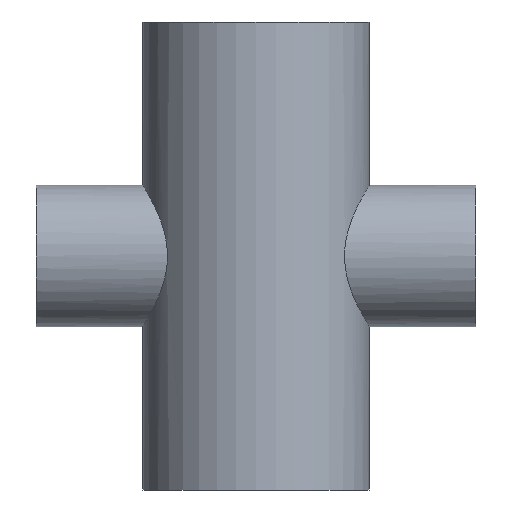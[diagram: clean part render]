
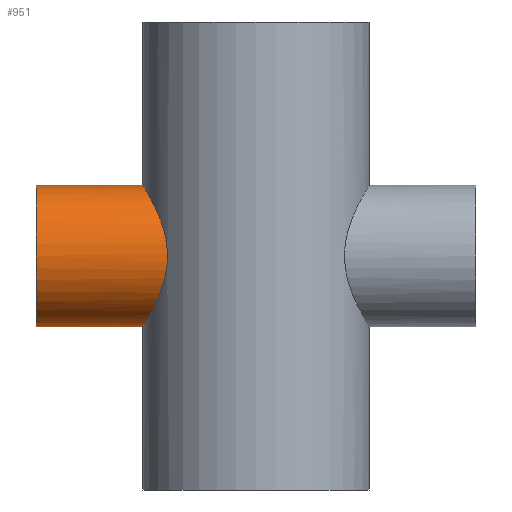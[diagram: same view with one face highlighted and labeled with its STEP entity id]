
A CAD part, front view. The second image highlights one B-rep face of the part: STEP entity #951.
In plain terms, the highlighted cylindrical face has radius 31.75 mm (diameter 63.5 mm), a partial arc.
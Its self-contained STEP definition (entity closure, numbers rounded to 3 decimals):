
#1 = CARTESIAN_POINT ( 'NONE',  ( -98.425, 0., 0. ) ) ;
#2 = CARTESIAN_POINT ( 'NONE',  ( -47.893, -16.963, -26.858 ) ) ;
#5 = CARTESIAN_POINT ( 'NONE',  ( -48.193, -16.092, -27.389 ) ) ;
#8 = CARTESIAN_POINT ( 'NONE',  ( -48.759, -14.285, -28.373 ) ) ;
#11 = CARTESIAN_POINT ( 'NONE',  ( -49.025, -13.349, -28.827 ) ) ;
#13 = CARTESIAN_POINT ( 'NONE',  ( -49.756, -10.44, -30.058 ) ) ;
#16 = CARTESIAN_POINT ( 'NONE',  ( -50.137, -8.44, -30.68 ) ) ;
#27 = CARTESIAN_POINT ( 'NONE',  ( -98.425, 0., -31.75 ) ) ;
#28 = DIRECTION ( 'NONE',  ( 1., 0., 0. ) ) ;
#40 = CARTESIAN_POINT ( 'NONE',  ( -40.001, -31.315, 5.344 ) ) ;
#44 = CARTESIAN_POINT ( 'NONE',  ( -50.529, -5.345, -31.315 ) ) ;
#46 = DIRECTION ( 'NONE',  ( 0., 0., -1. ) ) ;
#49 = EDGE_CURVE ( 'NONE', #172, #350, #512, .T. ) ;
#51 = CARTESIAN_POINT ( 'NONE',  ( -50.629, -4.297, -31.476 ) ) ;
#53 = CARTESIAN_POINT ( 'NONE',  ( -42.103, -28.441, 14.261 ) ) ;
#55 = CARTESIAN_POINT ( 'NONE',  ( -50.765, -2.168, -31.694 ) ) ;
#58 = CARTESIAN_POINT ( 'NONE',  ( -50.8, -1.083, -31.75 ) ) ;
#63 = CARTESIAN_POINT ( 'NONE',  ( -50.8, 0., -31.75 ) ) ;
#65 = CARTESIAN_POINT ( 'NONE',  ( -41.258, -29.642, 11.421 ) ) ;
#71 = DIRECTION ( 'NONE',  ( 1., 0., 0. ) ) ;
#73 = CARTESIAN_POINT ( 'NONE',  ( -42.749, -27.476, 16.039 ) ) ;
#121 = CARTESIAN_POINT ( 'NONE',  ( -40.329, -30.891, 7.411 ) ) ;
#128 = CARTESIAN_POINT ( 'NONE',  ( -98.425, 0., -31.75 ) ) ;
#134 = CARTESIAN_POINT ( 'NONE',  ( -50.8, 0., 31.75 ) ) ;
#172 = VERTEX_POINT ( 'NONE', #27 ) ;
#173 = DIRECTION ( 'NONE',  ( 1., 0., 0. ) ) ;
#187 = CARTESIAN_POINT ( 'NONE',  ( -40.53, -30.628, 8.431 ) ) ;
#197 = CARTESIAN_POINT ( 'NONE',  ( -41.246, -29.659, -11.379 ) ) ;
#199 = CARTESIAN_POINT ( 'NONE',  ( -39.874, -31.476, 4.297 ) ) ;
#206 = CARTESIAN_POINT ( 'NONE',  ( -41.811, -28.857, -13.281 ) ) ;
#208 = CARTESIAN_POINT ( 'NONE',  ( -42.116, -28.412, -14.209 ) ) ;
#225 = CARTESIAN_POINT ( 'NONE',  ( -42.761, -27.432, -16.019 ) ) ;
#231 = LINE ( 'NONE', #812, #266 ) ;
#266 = VECTOR ( 'NONE', #71, 1000. ) ;
#269 = CARTESIAN_POINT ( 'NONE',  ( -50.8, 0., 31.75 ) ) ;
#275 = CARTESIAN_POINT ( 'NONE',  ( -50.8, -2.162, 31.75 ) ) ;
#295 = ORIENTED_EDGE ( 'NONE', *, *, #49, .T. ) ;
#302 = CARTESIAN_POINT ( 'NONE',  ( -98.425, 0., 31.75 ) ) ;
#305 = CARTESIAN_POINT ( 'NONE',  ( -43.097, -26.902, -16.894 ) ) ;
#308 = CARTESIAN_POINT ( 'NONE',  ( -50.8, 0., -31.75 ) ) ;
#350 = VERTEX_POINT ( 'NONE', #308 ) ;
#381 = VERTEX_POINT ( 'NONE', #302 ) ;
#414 = CYLINDRICAL_SURFACE ( 'NONE', #475, 31.75 ) ;
#420 = EDGE_CURVE ( 'NONE', #381, #172, #575, .T. ) ;
#475 = AXIS2_PLACEMENT_3D ( 'NONE', #903, #666, #678 ) ;
#493 = B_SPLINE_CURVE_WITH_KNOTS ( 'NONE', 3,
 ( #269, #275, #823, #819, #834, #838, #880, #883, #887, #899, #957, #969, #974, #983, #987, #992, #996, #73, #53, #65, #918, #187, #121, #40, #199, #643, #667, #680, #737, #753, #826, #836, #904, #967, #197, #206, #208, #225, #305, #613, #998, #688, #695, #698, #706, #765, #995, #2, #5, #8, #11, #13, #16, #44, #51, #55, #58, #63 ),
 .UNSPECIFIED., .F., .F.,
 ( 4, 2, 2, 2, 2, 2, 2, 2, 2, 2, 2, 2, 2, 2, 2, 2, 2, 2, 2, 2, 2, 2, 2, 2, 2, 2, 2, 2, 4 ),
 ( 0., 0.006, 0.01, 0.013, 0.019, 0.026, 0.029, 0.03, 0.032, 0.038, 0.041, 0.045, 0.048, 0.049, 0.051, 0.057, 0.061, 0.064, 0.067, 0.07, 0.077, 0.078, 0.08, 0.083, 0.086, 0.089, 0.096, 0.099, 0.102 ),
 .UNSPECIFIED. ) ;
#498 = VECTOR ( 'NONE', #173, 1000. ) ;
#512 = LINE ( 'NONE', #128, #498 ) ;
#529 = VERTEX_POINT ( 'NONE', #134 ) ;
#561 = FACE_OUTER_BOUND ( 'NONE', #702, .T. ) ;
#575 = CIRCLE ( 'NONE', #873, 31.75 ) ;
#613 = CARTESIAN_POINT ( 'NONE',  ( -44.127, -25.203, -19.416 ) ) ;
#643 = CARTESIAN_POINT ( 'NONE',  ( -39.744, -31.639, 2.705 ) ) ;
#650 = EDGE_CURVE ( 'NONE', #529, #350, #493, .T. ) ;
#666 = DIRECTION ( 'NONE',  ( 1., 0., 0. ) ) ;
#667 = CARTESIAN_POINT ( 'NONE',  ( -39.711, -31.68, 2.171 ) ) ;
#678 = DIRECTION ( 'NONE',  ( 0., 0., -1. ) ) ;
#680 = CARTESIAN_POINT ( 'NONE',  ( -39.667, -31.736, 1.096 ) ) ;
#688 = CARTESIAN_POINT ( 'NONE',  ( -45.728, -22.131, -22.772 ) ) ;
#695 = CARTESIAN_POINT ( 'NONE',  ( -45.905, -21.762, -23.125 ) ) ;
#698 = CARTESIAN_POINT ( 'NONE',  ( -46.254, -21.01, -23.81 ) ) ;
#702 = EDGE_LOOP ( 'NONE', ( #977, #705, #295, #732 ) ) ;
#705 = ORIENTED_EDGE ( 'NONE', *, *, #420, .T. ) ;
#706 = CARTESIAN_POINT ( 'NONE',  ( -46.426, -20.626, -24.143 ) ) ;
#732 = ORIENTED_EDGE ( 'NONE', *, *, #650, .F. ) ;
#737 = CARTESIAN_POINT ( 'NONE',  ( -39.656, -31.75, 0.553 ) ) ;
#753 = CARTESIAN_POINT ( 'NONE',  ( -39.655, -31.751, -2.136 ) ) ;
#765 = CARTESIAN_POINT ( 'NONE',  ( -46.935, -19.455, -25.112 ) ) ;
#780 = EDGE_CURVE ( 'NONE', #381, #529, #231, .T. ) ;
#812 = CARTESIAN_POINT ( 'NONE',  ( -98.425, 0., 31.75 ) ) ;
#819 = CARTESIAN_POINT ( 'NONE',  ( -50.271, -7.386, 30.897 ) ) ;
#823 = CARTESIAN_POINT ( 'NONE',  ( -50.663, -4.277, 31.532 ) ) ;
#826 = CARTESIAN_POINT ( 'NONE',  ( -39.83, -31.536, -4.25 ) ) ;
#834 = CARTESIAN_POINT ( 'NONE',  ( -50.109, -8.411, 30.634 ) ) ;
#836 = CARTESIAN_POINT ( 'NONE',  ( -40.321, -30.901, -7.368 ) ) ;
#838 = CARTESIAN_POINT ( 'NONE',  ( -49.726, -10.44, 30.003 ) ) ;
#873 = AXIS2_PLACEMENT_3D ( 'NONE', #1, #28, #46 ) ;
#880 = CARTESIAN_POINT ( 'NONE',  ( -49.508, -11.426, 29.641 ) ) ;
#883 = CARTESIAN_POINT ( 'NONE',  ( -48.786, -14.3, 28.424 ) ) ;
#887 = CARTESIAN_POINT ( 'NONE',  ( -48.213, -16.107, 27.439 ) ) ;
#899 = CARTESIAN_POINT ( 'NONE',  ( -46.936, -19.517, 25.127 ) ) ;
#903 = CARTESIAN_POINT ( 'NONE',  ( -98.425, 0., 0. ) ) ;
#904 = CARTESIAN_POINT ( 'NONE',  ( -40.524, -30.636, -8.402 ) ) ;
#918 = CARTESIAN_POINT ( 'NONE',  ( -40.997, -30.001, 10.445 ) ) ;
#951 = ADVANCED_FACE ( 'NONE', ( #561 ), #414, .T. ) ;
#957 = CARTESIAN_POINT ( 'NONE',  ( -46.25, -21.074, 23.833 ) ) ;
#967 = CARTESIAN_POINT ( 'NONE',  ( -40.986, -30.015, -10.404 ) ) ;
#969 = CARTESIAN_POINT ( 'NONE',  ( -45.196, -23.208, 21.691 ) ) ;
#974 = CARTESIAN_POINT ( 'NONE',  ( -44.841, -23.885, 20.943 ) ) ;
#977 = ORIENTED_EDGE ( 'NONE', *, *, #780, .F. ) ;
#983 = CARTESIAN_POINT ( 'NONE',  ( -44.308, -24.851, 19.768 ) ) ;
#987 = CARTESIAN_POINT ( 'NONE',  ( -44.13, -25.165, 19.366 ) ) ;
#992 = CARTESIAN_POINT ( 'NONE',  ( -43.779, -25.771, 18.551 ) ) ;
#995 = CARTESIAN_POINT ( 'NONE',  ( -47.264, -18.644, -25.719 ) ) ;
#996 = CARTESIAN_POINT ( 'NONE',  ( -43.605, -26.064, 18.138 ) ) ;
#998 = CARTESIAN_POINT ( 'NONE',  ( -44.842, -23.924, -20.972 ) ) ;
